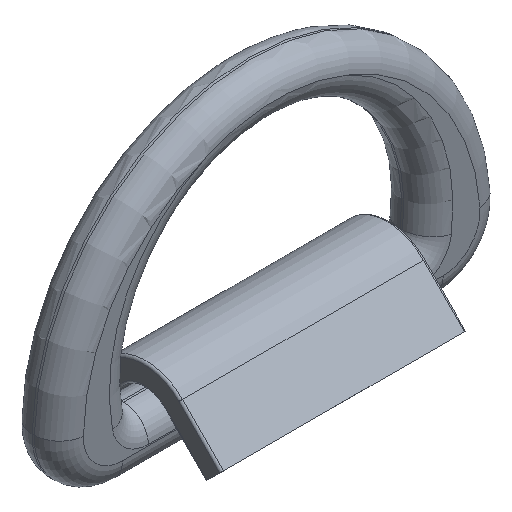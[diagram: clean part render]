
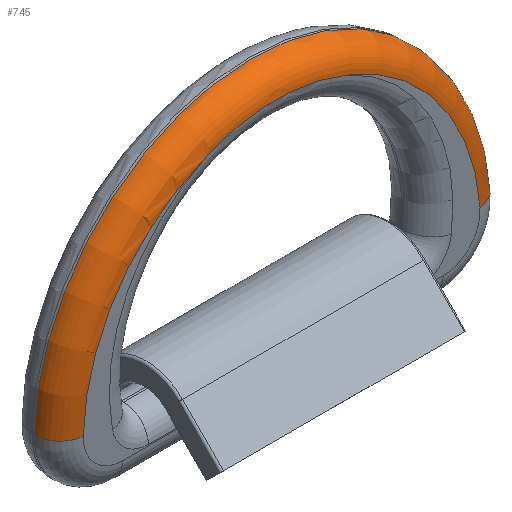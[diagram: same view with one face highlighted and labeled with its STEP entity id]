
A CAD part, isometric view. The second image highlights one B-rep face of the part: STEP entity #745.
In plain terms, the highlighted toroidal (fillet/blend) face has major radius 89 mm and minor radius 11 mm.
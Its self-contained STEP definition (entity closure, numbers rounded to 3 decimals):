
#39=B_SPLINE_CURVE_WITH_KNOTS('',3,(#1240,#1241,#1242,#1243,#1244,#1245,
#1246,#1247,#1248,#1249),.UNSPECIFIED.,.F.,.F.,(4,2,2,2,4),(-0.026,
0.,3.252,6.504,6.53),.UNSPECIFIED.);
#155=FACE_OUTER_BOUND('',#203,.T.);
#203=EDGE_LOOP('',(#521,#522,#523,#524,#525,#526));
#257=CIRCLE('',#828,89.);
#258=CIRCLE('',#829,11.);
#259=CIRCLE('',#830,100.);
#260=CIRCLE('',#831,11.);
#261=CIRCLE('',#832,89.);
#321=VERTEX_POINT('',#1238);
#322=VERTEX_POINT('',#1239);
#326=VERTEX_POINT('',#1264);
#327=VERTEX_POINT('',#1266);
#328=VERTEX_POINT('',#1268);
#329=VERTEX_POINT('',#1270);
#391=EDGE_CURVE('',#321,#322,#39,.T.);
#400=EDGE_CURVE('',#321,#326,#257,.T.);
#401=EDGE_CURVE('',#327,#326,#258,.T.);
#402=EDGE_CURVE('',#327,#328,#259,.T.);
#403=EDGE_CURVE('',#329,#328,#260,.T.);
#404=EDGE_CURVE('',#329,#322,#261,.T.);
#521=ORIENTED_EDGE('',*,*,#391,.F.);
#522=ORIENTED_EDGE('',*,*,#400,.T.);
#523=ORIENTED_EDGE('',*,*,#401,.F.);
#524=ORIENTED_EDGE('',*,*,#402,.T.);
#525=ORIENTED_EDGE('',*,*,#403,.F.);
#526=ORIENTED_EDGE('',*,*,#404,.T.);
#726=TOROIDAL_SURFACE('',#827,89.,11.);
#745=ADVANCED_FACE('',(#155),#726,.T.);
#827=AXIS2_PLACEMENT_3D('',#1263,#974,#975);
#828=AXIS2_PLACEMENT_3D('',#1265,#976,#977);
#829=AXIS2_PLACEMENT_3D('',#1267,#978,#979);
#830=AXIS2_PLACEMENT_3D('',#1269,#980,#981);
#831=AXIS2_PLACEMENT_3D('',#1271,#982,#983);
#832=AXIS2_PLACEMENT_3D('',#1272,#984,#985);
#974=DIRECTION('center_axis',(0.,0.,1.));
#975=DIRECTION('ref_axis',(1.,0.,0.));
#976=DIRECTION('center_axis',(0.,0.,-1.));
#977=DIRECTION('ref_axis',(0.,1.,0.));
#978=DIRECTION('center_axis',(0.049,-0.999,0.));
#979=DIRECTION('ref_axis',(0.999,0.049,0.));
#980=DIRECTION('center_axis',(0.,0.,1.));
#981=DIRECTION('ref_axis',(0.,1.,0.));
#982=DIRECTION('center_axis',(-0.049,-0.999,0.));
#983=DIRECTION('ref_axis',(0.,0.,1.));
#984=DIRECTION('center_axis',(0.,0.,-1.));
#985=DIRECTION('ref_axis',(0.,1.,0.));
#1238=CARTESIAN_POINT('',(31.825,83.115,11.5));
#1239=CARTESIAN_POINT('',(-31.825,83.115,11.5));
#1240=CARTESIAN_POINT('Ctrl Pts',(31.825,83.115,11.5));
#1241=CARTESIAN_POINT('Ctrl Pts',(31.746,83.148,11.5));
#1242=CARTESIAN_POINT('Ctrl Pts',(31.668,83.181,11.5));
#1243=CARTESIAN_POINT('Ctrl Pts',(21.574,87.363,11.5));
#1244=CARTESIAN_POINT('Ctrl Pts',(10.841,89.5,11.489));
#1245=CARTESIAN_POINT('Ctrl Pts',(-10.841,89.5,11.489));
#1246=CARTESIAN_POINT('Ctrl Pts',(-21.574,87.363,11.5));
#1247=CARTESIAN_POINT('Ctrl Pts',(-31.668,83.181,11.5));
#1248=CARTESIAN_POINT('Ctrl Pts',(-31.746,83.148,11.5));
#1249=CARTESIAN_POINT('Ctrl Pts',(-31.825,83.115,11.5));
#1263=CARTESIAN_POINT('Origin',(0.,0.,0.5));
#1264=CARTESIAN_POINT('',(88.895,4.326,11.5));
#1265=CARTESIAN_POINT('Origin',(0.,0.,11.5));
#1266=CARTESIAN_POINT('',(99.882,4.861,0.5));
#1267=CARTESIAN_POINT('Origin',(88.895,4.326,0.5));
#1268=CARTESIAN_POINT('',(-99.882,4.861,0.5));
#1269=CARTESIAN_POINT('Origin',(0.,0.,0.5));
#1270=CARTESIAN_POINT('',(-88.895,4.326,11.5));
#1271=CARTESIAN_POINT('Origin',(-88.895,4.326,0.5));
#1272=CARTESIAN_POINT('Origin',(0.,0.,11.5));
